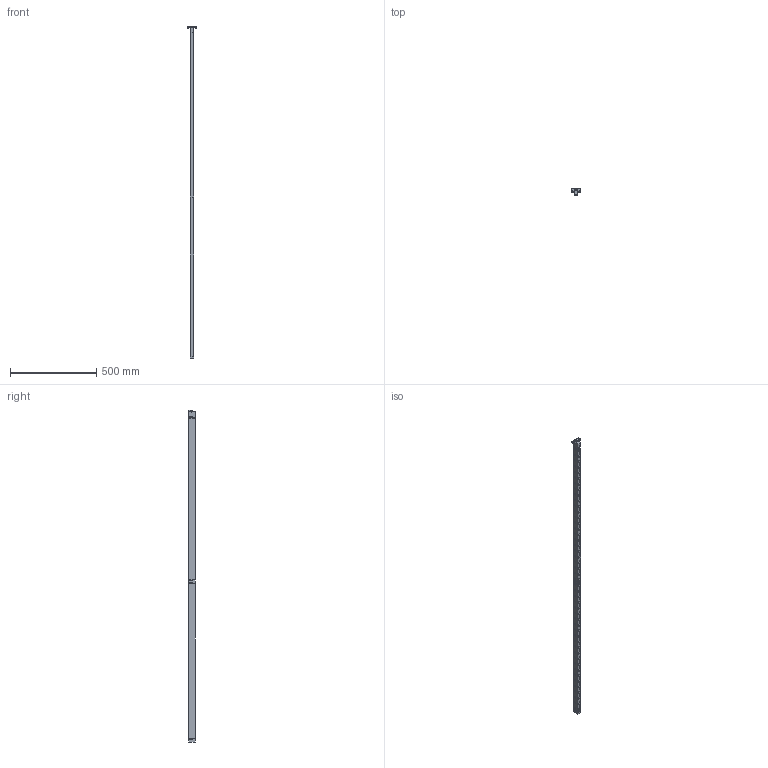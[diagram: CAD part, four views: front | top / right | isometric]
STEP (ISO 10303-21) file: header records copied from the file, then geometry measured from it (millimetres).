
FILE_DESCRIPTION(/* description */ (''),/* implementation_level */ '2;1');
FILE_NAME(/* name */ 'S:\EASCN Vault\Designs\Standard Part\DIE LIFTERS\EHB\EHB- 3D step\EHB22 - 3D step complete serie\EHB 22-47.stp',/* time_stamp */ '2019-11-21T16:12:53+08:00',/* author */ ('yue.yang'),/* organization */ (''),/* preprocessor_version */ 'ST-DEVELOPER v17',/* originating_system */ 'Autodesk Inventor 2019',/* authorisation */ '');
FILE_SCHEMA (('AUTOMOTIVE_DESIGN { 1 0 10303 214 3 1 1 }'));
Products named in the file (1): EHB 22-47_Shrinkwrap_1
Bounding box: 58 x 37.8 x 1929 mm (x, y, z)
Volume: 1235999.2 mm3; surface area: 486070 mm2
Topology: 160 solids, 160 shells, 1526 faces, 4222 edges, 3064 vertices
Faces by surface type: plane 522, cylinder 491, torus 235, cone 231, sphere 47
Full cylindrical faces by diameter (mm): 3 x3, 4.134 x1, 5 x27, 5.5 x5, 6 x49, 6.647 x2, 8 x2, 10 x8, 10.5 x1, 12.2 x47, 16 x47, 16.4 x47, 17.05 x47, 19.05 x47, 19.2 x47
Entity records: 57544 total; most frequent: CARTESIAN_POINT 14446, DIRECTION 9450, ORIENTED_EDGE 8150, AXIS2_PLACEMENT_3D 4217, EDGE_CURVE 4075, VERTEX_POINT 3064, CIRCLE 2688, EDGE_LOOP 1973
